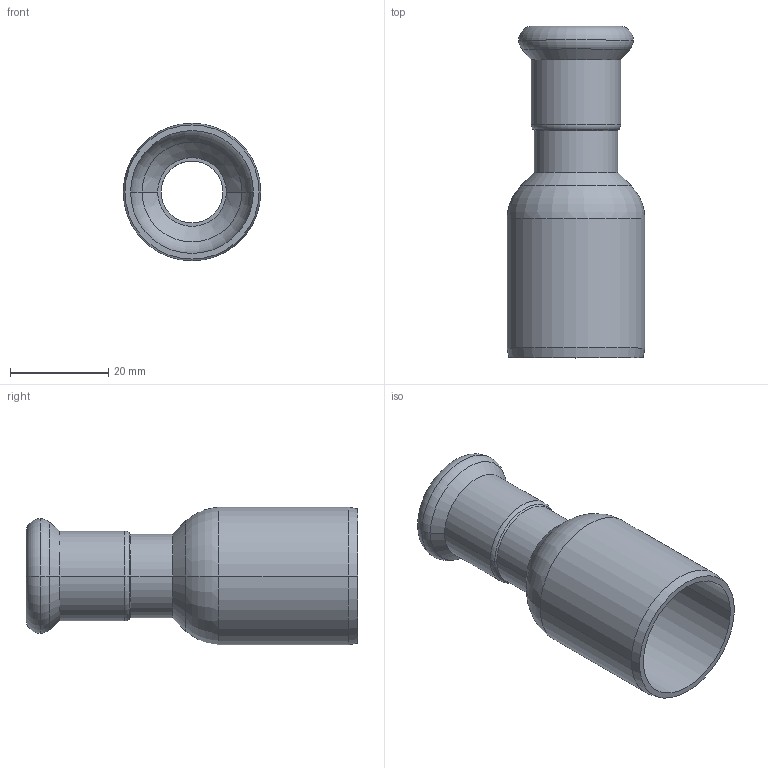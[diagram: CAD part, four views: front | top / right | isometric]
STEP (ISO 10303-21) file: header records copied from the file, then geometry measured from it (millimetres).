
FILE_DESCRIPTION(('CoCreate Modeling STEP Export'),'2;1');
FILE_NAME('C1407 15x28.stp','2014-11-07T15:27:05',(''),(''),'CoCreate Modeling STEP processor for AP214 (Solid Model)','CoCreate Modeling 17.00A 17-Jun-2010 (C) Parametric Technology GmbH','');
FILE_SCHEMA(('AUTOMOTIVE_DESIGN { 1 0 10303 214 1 1 1 1 }'));
Length unit declared in the file: millimetre
Products named in the file (2): C1407_15x28
Assembly tree (1 placements, depth 2):
  C1407_15x28
    C1407_15x28
Bounding box: 28 x 67.5 x 28 mm (x, y, z)
Volume: 8124.2 mm3; surface area: 9836.3 mm2
Topology: 1 solids, 1 shells, 41 faces, 83 edges, 47 vertices
Faces by surface type: cylinder 16, cone 10, torus 10, plane 5
Entity records: 908 total; most frequent: ORIENTED_EDGE 166, DIRECTION 140, CARTESIAN_POINT 130, EDGE_CURVE 83, AXIS2_PLACEMENT_3D 57, VERTEX_POINT 47, EDGE_LOOP 46, FACE_OUTER_BOUND 41
